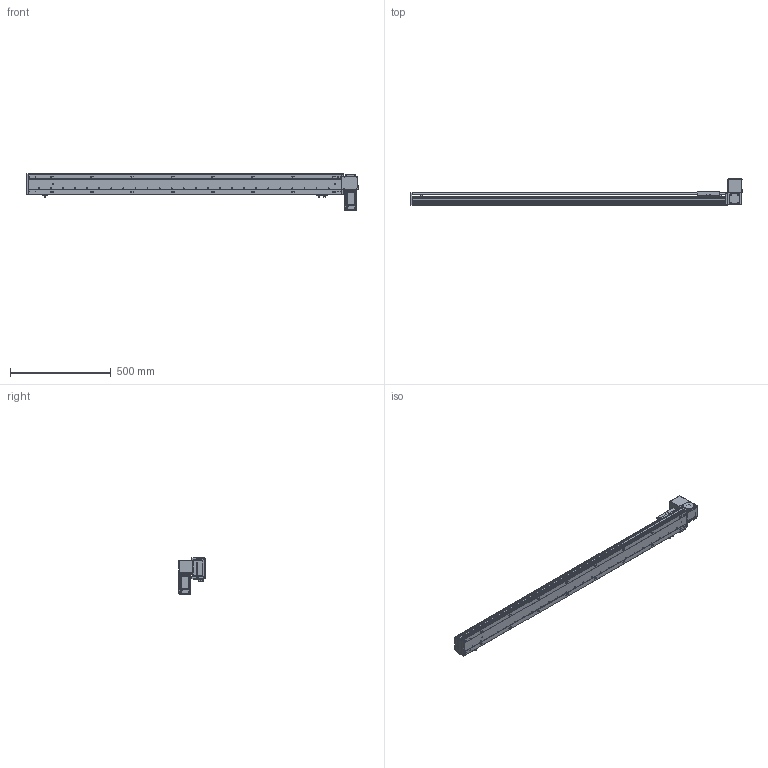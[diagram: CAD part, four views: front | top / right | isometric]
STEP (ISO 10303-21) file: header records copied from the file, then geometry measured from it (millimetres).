
FILE_DESCRIPTION (( 'STEP AP203' ), '1' );
FILE_NAME ('RY100-T-300-UL.SLDASM_1350.step', '2024-04-25T08:40:29', ( '盈信电脑' ), ( '东莞市道滘镇水果街19号' ), 'SwSTEP 2.0', 'SolidWorks 2016', '' );
FILE_SCHEMA (( 'CONFIG_CONTROL_DESIGN' ));
Length unit declared in the file: millimetre
Products named in the file (15): 滅袉蝶18-10; RY100俋离覜茼え; RY100-T粣創揤踡裔; RY100-T肮祭謫翋盓傅釱; RY100-T-300-RK倰第菁釱_1350; RY100-T-300-UL.SLDASM_1350; RY100-T肮祭謫臏賑輸; RY100-T翋肮祭謫裔啣; RY100-T翋肮祭謫裔啣2; RY100綴裔啣; RY100-T左右折电机安装板; RY100-T-300-RK倰第奻裔_1350; 覜茼ん672; 1; RY80-T肮祭謫奻殏俋欶
Assembly tree (17 placements, depth 2):
  RY100-T-300-UL.SLDASM_1350
    RY100-T-300-RK倰第菁釱_1350
    RY100-T-300-RK倰第奻裔_1350
    RY100-T肮祭謫臏賑輸
    RY100綴裔啣
    覜茼ん672  x3
    RY100俋离覜茼え
    RY100-T肮祭謫翋盓傅釱
    滅袉蝶18-10  x2
    RY100-T翋肮祭謫裔啣2
    RY100-T翋肮祭謫裔啣
    1
    RY100-T左右折电机安装板
    RY80-T肮祭謫奻殏俋欶
    RY100-T粣創揤踡裔
Bounding box: 1650 x 130.5 x 182.5 mm (x, y, z)
Volume: 3186493.9 mm3; surface area: 1329448.1 mm2
Topology: 17 solids, 17 shells, 2235 faces, 6222 edges, 4042 vertices
Faces by surface type: plane 1207, cylinder 817, cone 133, bspline 78
Entity records: 72164 total; most frequent: CARTESIAN_POINT 17399, ORIENTED_EDGE 11276, DIRECTION 10748, EDGE_CURVE 5638, VERTEX_POINT 3710, LINE 3628, VECTOR 3628, AXIS2_PLACEMENT_3D 3560
